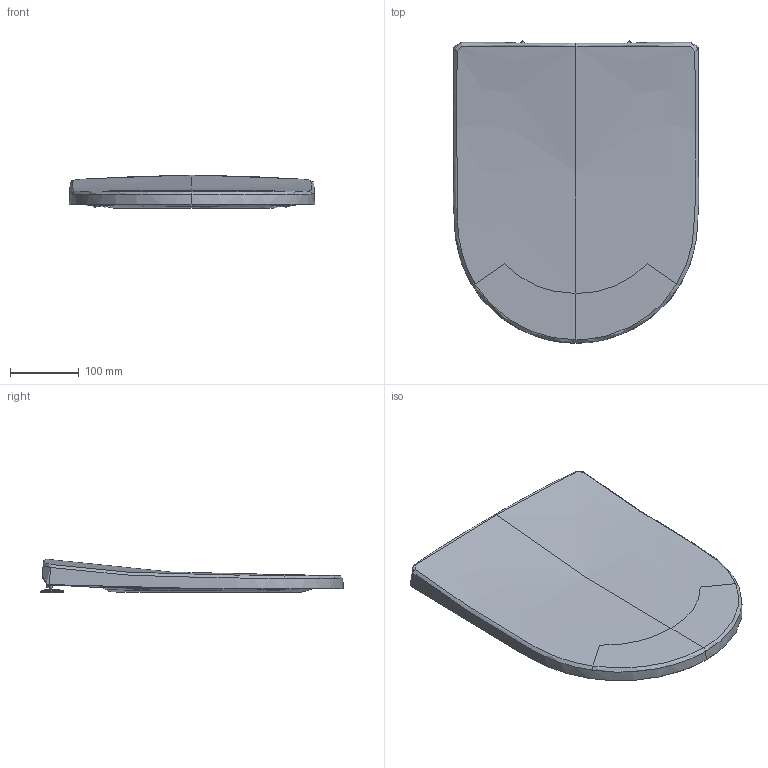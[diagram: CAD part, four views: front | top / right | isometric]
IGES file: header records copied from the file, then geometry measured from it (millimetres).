
Global section: file name: 500605; native system: Autodesk Inventor 2018; preprocessor: unknown; author: JANAN; date: 20200224.081515; units: millimetre
Bounding box: 356.05 x 439.47 x 48.62 mm (x, y, z)
Volume: 1464269.7 mm3; surface area: 525693.1 mm2
Topology: 1 solids, 13 shells, 710 faces, 1840 edges, 1148 vertices
Faces by surface type: bspline 710
